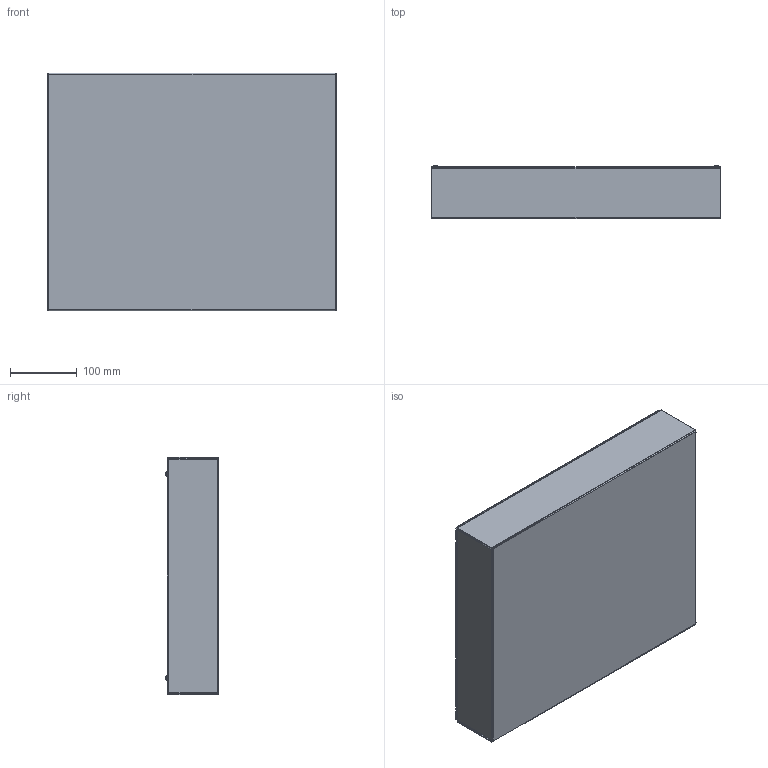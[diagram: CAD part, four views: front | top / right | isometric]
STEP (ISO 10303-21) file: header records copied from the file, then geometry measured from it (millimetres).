
FILE_DESCRIPTION((''),'2;1');
FILE_NAME('E:\Eng\Customer Service\Drawings\1441 & 1431\STEP Files\1441-38\1441-38 - Assembly.iam.stp','2013-07-10T11:33:59',(''),(''),'Autodesk Inventor 2013','Autodesk Inventor 2013','');
FILE_SCHEMA(('AUTOMOTIVE_DESIGN { 1 0 10303 214 1 1 1 1 }'));
Length unit declared in the file: inch
Products named in the file (4): 1441-38 - Assembly; 1441-38; 1431-38; 6-32 (SC18394)
Assembly tree (6 placements, depth 2):
  1441-38 - Assembly
    1441-38
    1431-38
    6-32 (SC18394)  x4
Bounding box: 431.8 x 79.63 x 355.6 mm (x, y, z)
Volume: 488555.4 mm3; surface area: 882472.7 mm2
Topology: 6 solids, 6 shells, 248 faces, 616 edges, 384 vertices
Faces by surface type: plane 184, cylinder 40, bspline 16, torus 8
Full cylindrical faces by diameter (mm): 2.946 x4, 3.404 x4, 6.731 x4
Entity records: 5190 total; most frequent: CARTESIAN_POINT 1247, ORIENTED_EDGE 794, DIRECTION 758, EDGE_CURVE 397, VECTOR 310, LINE 310, VERTEX_POINT 245, AXIS2_PLACEMENT_3D 224
